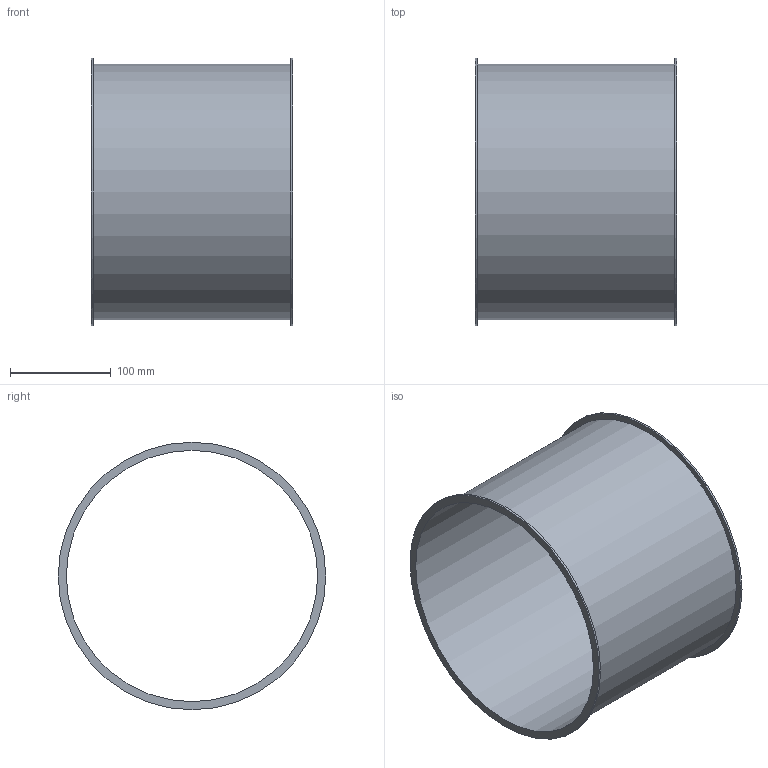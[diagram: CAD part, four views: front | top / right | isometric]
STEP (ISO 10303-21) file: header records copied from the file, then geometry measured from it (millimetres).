
FILE_DESCRIPTION((''),'2;1');
FILE_NAME('U:\Wolfgang\Marcel-3D\fertig\Kapitel 1\2521004.stp','2010-05-31T11:33:16',('TK2'),(''),'Autodesk Inventor 2010','Autodesk Inventor 2010','');
FILE_SCHEMA(('AUTOMOTIVE_DESIGN { 1 0 10303 214 1 1 1 1 }'));
Length unit declared in the file: millimetre
Products named in the file (1): 2521004
Bounding box: 200 x 265 x 265 mm (x, y, z)
Volume: 334944 mm3; surface area: 338249 mm2
Topology: 1 solids, 1 shells, 8 faces, 12 edges, 8 vertices
Faces by surface type: cylinder 4, plane 4
Full cylindrical faces by diameter (mm): 249 x1, 253 x1, 265 x2
Entity records: 194 total; most frequent: DIRECTION 34, CARTESIAN_POINT 25, AXIS2_PLACEMENT_3D 17, ORIENTED_EDGE 16, EDGE_LOOP 16, VERTEX_POINT 8, CIRCLE 8, EDGE_CURVE 8
